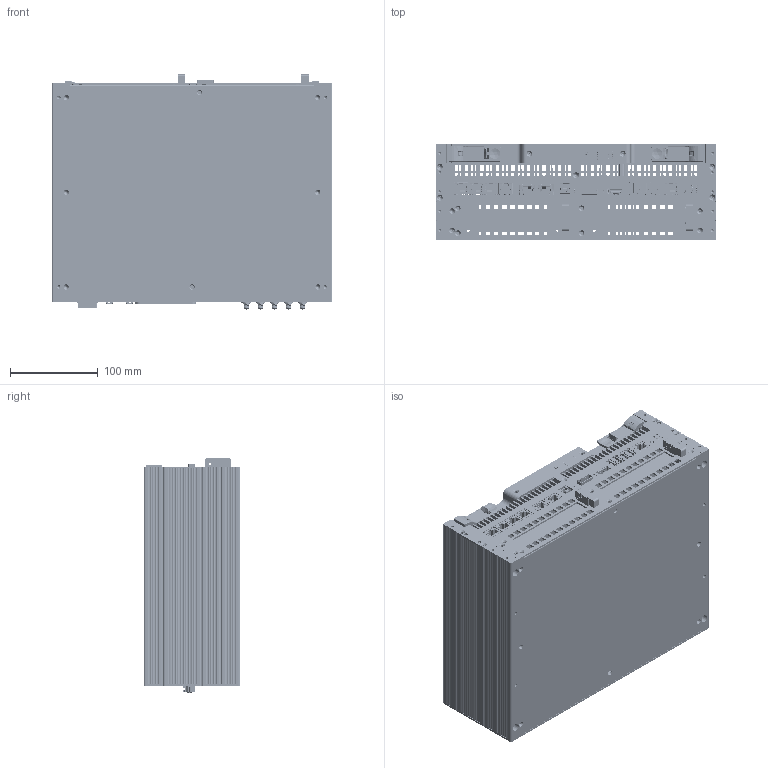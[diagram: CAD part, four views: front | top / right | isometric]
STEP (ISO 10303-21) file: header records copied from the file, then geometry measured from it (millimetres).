
FILE_DESCRIPTION(/* description */ (''),/* implementation_level */ '2;1');
FILE_NAME(/* name */ 'D:\Programm_Data\Autodesk\components\VP7470 vereinfacht\VP7470.stp',/* time_stamp */ '2024-04-09T08:55:15+02:00',/* author */ ('viskhp'),/* organization */ (''),/* preprocessor_version */ 'ST-DEVELOPER v18.1',/* originating_system */ 'Autodesk Inventor 2022',/* authorisation */ '');
FILE_SCHEMA (('AUTOMOTIVE_DESIGN { 1 0 10303 214 3 1 1 }'));
Products named in the file (1): VP7470
Bounding box: 320 x 110 x 268.27 mm (x, y, z)
Volume: 2154457.4 mm3; surface area: 1478300.3 mm2
Topology: 2 solids, 51 shells, 21966 faces, 60622 edges, 39143 vertices
Faces by surface type: plane 14097, cylinder 5924, bspline 1047, cone 536, torus 214, sphere 148
Full cylindrical faces by diameter (mm): 0.457 x60, 0.711 x30, 0.9 x8, 0.92 x5, 1 x8, 1.118 x30, 1.2 x2, 1.27 x15, 1.3 x5, 1.4 x8, 1.524 x4, 1.95 x24, 2 x12, 2.05 x4, 2.2 x12, 2.261 x4, 2.3 x10, 2.32 x4, 2.5 x137, 2.9 x4, 3 x12, 3.2 x6, 3.3 x34, 3.4 x47, 3.6 x4, 3.72 x2, 4 x24, 4.1 x17, 4.2 x2, 4.3 x6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
Entity records: 792897 total; most frequent: CARTESIAN_POINT 206902, ORIENTED_EDGE 120516, DIRECTION 112362, EDGE_CURVE 60366, LINE 44484, VECTOR 44484, VERTEX_POINT 39143, AXIS2_PLACEMENT_3D 33939
